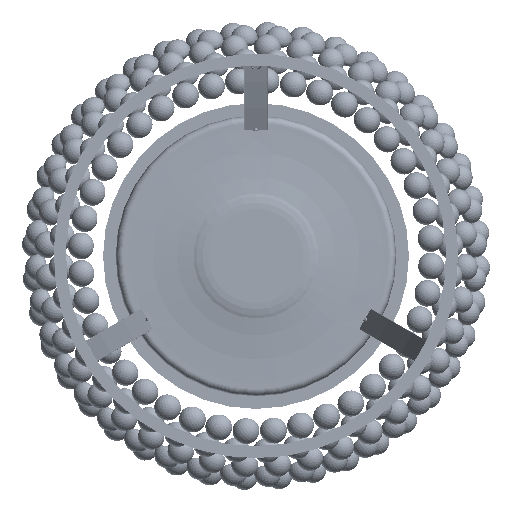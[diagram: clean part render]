
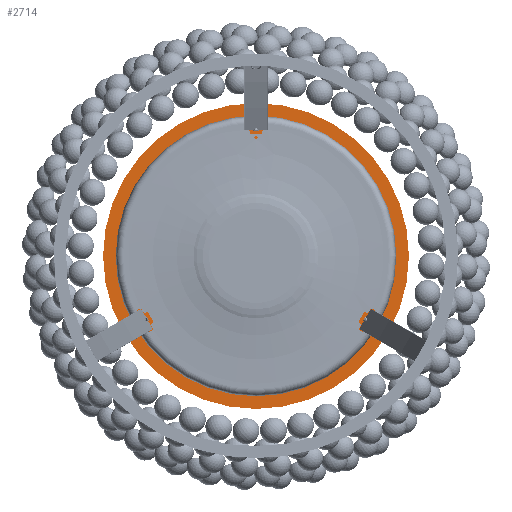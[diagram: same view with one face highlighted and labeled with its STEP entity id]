
A CAD part, front view. The second image highlights one B-rep face of the part: STEP entity #2714.
In plain terms, the highlighted planar face has unit normal (0, -1, 0).
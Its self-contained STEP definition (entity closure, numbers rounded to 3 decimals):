
#2521 = EDGE_CURVE ( 'NONE', #94013, #52087, #77396, .T. ) ;
#2714 = ADVANCED_FACE ( 'NONE', ( #53993, #7401 ), #27064, .F. ) ;
#3425 = DIRECTION ( 'NONE',  ( 0., 0., 1. ) ) ;
#4911 = EDGE_CURVE ( 'NONE', #108008, #45796, #104836, .T. ) ;
#4954 = AXIS2_PLACEMENT_3D ( 'NONE', #116962, #116369, #45811 ) ;
#5447 = CARTESIAN_POINT ( 'NONE',  ( 0., 1545., -227.5 ) ) ;
#7401 = FACE_OUTER_BOUND ( 'NONE', #68559, .T. ) ;
#7808 = DIRECTION ( 'NONE',  ( 0., 0., 1. ) ) ;
#9589 = DIRECTION ( 'NONE',  ( 0., -1., 0. ) ) ;
#10484 = CIRCLE ( 'NONE', #41021, 138. ) ;
#17141 = EDGE_CURVE ( 'NONE', #52087, #94013, #10484, .T. ) ;
#17816 = ORIENTED_EDGE ( 'NONE', *, *, #17141, .F. ) ;
#27064 = PLANE ( 'NONE',  #117473 ) ;
#28409 = EDGE_LOOP ( 'NONE', ( #17816, #115798 ) ) ;
#28617 = CARTESIAN_POINT ( 'NONE',  ( 0., 1545., 227.5 ) ) ;
#28764 = CARTESIAN_POINT ( 'NONE',  ( 0., 1545., -138. ) ) ;
#38661 = CARTESIAN_POINT ( 'NONE',  ( 0., 1545., 0. ) ) ;
#41021 = AXIS2_PLACEMENT_3D ( 'NONE', #89731, #89137, #7808 ) ;
#45609 = DIRECTION ( 'NONE',  ( 0., 1., 0. ) ) ;
#45796 = VERTEX_POINT ( 'NONE', #5447 ) ;
#45811 = DIRECTION ( 'NONE',  ( 0., 0., 1. ) ) ;
#52087 = VERTEX_POINT ( 'NONE', #28764 ) ;
#53993 = FACE_BOUND ( 'NONE', #28409, .T. ) ;
#54581 = DIRECTION ( 'NONE',  ( 0., 0., -1. ) ) ;
#56791 = DIRECTION ( 'NONE',  ( 0., 0., 1. ) ) ;
#65155 = CARTESIAN_POINT ( 'NONE',  ( 0., 1545., 138. ) ) ;
#68559 = EDGE_LOOP ( 'NONE', ( #90385, #73410 ) ) ;
#69128 = CARTESIAN_POINT ( 'NONE',  ( 227.5, 1545., 0. ) ) ;
#73410 = ORIENTED_EDGE ( 'NONE', *, *, #116138, .T. ) ;
#77396 = CIRCLE ( 'NONE', #98410, 138. ) ;
#83221 = CIRCLE ( 'NONE', #4954, 227.5 ) ;
#85758 = AXIS2_PLACEMENT_3D ( 'NONE', #93260, #9589, #56791 ) ;
#89137 = DIRECTION ( 'NONE',  ( 0., -1., 0. ) ) ;
#89731 = CARTESIAN_POINT ( 'NONE',  ( 0., 1545., 0. ) ) ;
#90385 = ORIENTED_EDGE ( 'NONE', *, *, #4911, .T. ) ;
#93260 = CARTESIAN_POINT ( 'NONE',  ( 0., 1545., 0. ) ) ;
#93688 = DIRECTION ( 'NONE',  ( 0., -1., 0. ) ) ;
#94013 = VERTEX_POINT ( 'NONE', #65155 ) ;
#98410 = AXIS2_PLACEMENT_3D ( 'NONE', #38661, #93688, #3425 ) ;
#104836 = CIRCLE ( 'NONE', #85758, 227.5 ) ;
#108008 = VERTEX_POINT ( 'NONE', #28617 ) ;
#115798 = ORIENTED_EDGE ( 'NONE', *, *, #2521, .F. ) ;
#116138 = EDGE_CURVE ( 'NONE', #45796, #108008, #83221, .T. ) ;
#116369 = DIRECTION ( 'NONE',  ( 0., -1., 0. ) ) ;
#116962 = CARTESIAN_POINT ( 'NONE',  ( 0., 1545., 0. ) ) ;
#117473 = AXIS2_PLACEMENT_3D ( 'NONE', #69128, #45609, #54581 ) ;
